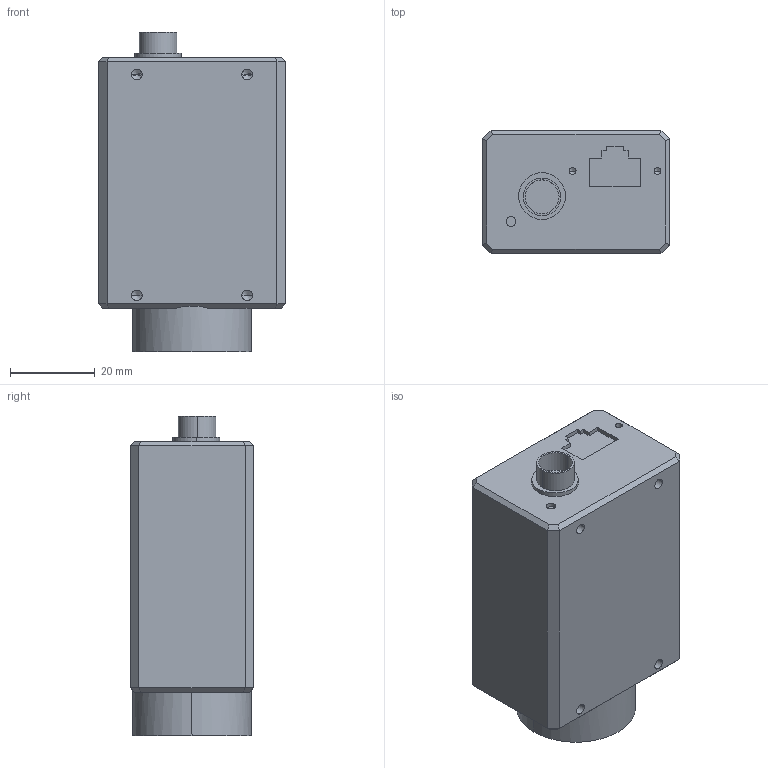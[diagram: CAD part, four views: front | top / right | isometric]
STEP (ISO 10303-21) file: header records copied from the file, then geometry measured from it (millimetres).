
FILE_DESCRIPTION((''),'2;1');
FILE_NAME('MV-CH089-10GMGC','2020-03-11T11:24:55',('wangyijun6'),(''),'CREO PARAMETRIC BY PTC INC, 2017260','CREO PARAMETRIC BY PTC INC, 2017260','');
FILE_SCHEMA(('CONFIG_CONTROL_DESIGN'));
Length unit declared in the file: millimetre
Products named in the file (1): MV-CH089-10GMGC
Bounding box: 44 x 29 x 75.33 mm (x, y, z)
Volume: 76398.7 mm3; surface area: 12994.9 mm2
Topology: 1 solids, 1 shells, 90 faces, 214 edges, 124 vertices
Faces by surface type: plane 46, cylinder 28, cone 16
Entity records: 2495 total; most frequent: DIRECTION 434, CARTESIAN_POINT 425, ORIENTED_EDGE 396, EDGE_CURVE 198, AXIS2_PLACEMENT_3D 148, VECTOR 138, LINE 138, VERTEX_POINT 124
